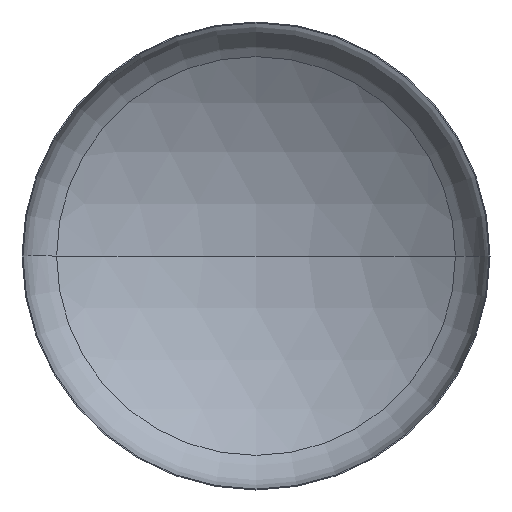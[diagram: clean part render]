
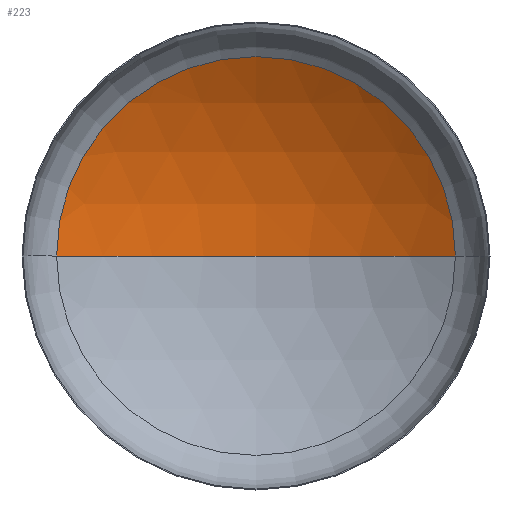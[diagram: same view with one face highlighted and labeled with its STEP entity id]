
A CAD part, front view. The second image highlights one B-rep face of the part: STEP entity #223.
In plain terms, the highlighted spherical face has radius 5200 mm.
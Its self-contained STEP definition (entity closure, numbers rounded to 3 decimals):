
#11 = DIRECTION ( 'NONE',  ( 0., 0., -1. ) ) ;
#23 = VERTEX_POINT ( 'NONE', #276 ) ;
#25 = ORIENTED_EDGE ( 'NONE', *, *, #155, .T. ) ;
#29 = CARTESIAN_POINT ( 'NONE',  ( 0., -3514.691, 0. ) ) ;
#38 = ORIENTED_EDGE ( 'NONE', *, *, #152, .T. ) ;
#48 = AXIS2_PLACEMENT_3D ( 'NONE', #29, #11, #188 ) ;
#77 = VERTEX_POINT ( 'NONE', #280 ) ;
#79 = AXIS2_PLACEMENT_3D ( 'NONE', #194, #393, #261 ) ;
#81 = ORIENTED_EDGE ( 'NONE', *, *, #159, .F. ) ;
#82 = AXIS2_PLACEMENT_3D ( 'NONE', #221, #208, #201 ) ;
#87 = AXIS2_PLACEMENT_3D ( 'NONE', #296, #295, #291 ) ;
#123 = CIRCLE ( 'NONE', #87, 2769.619 ) ;
#126 = EDGE_LOOP ( 'NONE', ( #81, #25, #38 ) ) ;
#152 = EDGE_CURVE ( 'NONE', #23, #169, #123, .T. ) ;
#155 = EDGE_CURVE ( 'NONE', #77, #23, #347, .T. ) ;
#159 = EDGE_CURVE ( 'NONE', #77, #169, #401, .T. ) ;
#169 = VERTEX_POINT ( 'NONE', #254 ) ;
#188 = DIRECTION ( 'NONE',  ( -1., 0., 0. ) ) ;
#194 = CARTESIAN_POINT ( 'NONE',  ( 0., -3514.691, 0. ) ) ;
#198 = SPHERICAL_SURFACE ( 'NONE', #48, 5200. ) ;
#201 = DIRECTION ( 'NONE',  ( -1., 0., 0. ) ) ;
#208 = DIRECTION ( 'NONE',  ( 0., 0., -1. ) ) ;
#221 = CARTESIAN_POINT ( 'NONE',  ( 0., -3514.691, 0. ) ) ;
#223 = ADVANCED_FACE ( 'NONE', ( #391 ), #198, .F. ) ;
#254 = CARTESIAN_POINT ( 'NONE',  ( -2769.619, 886.355, 0. ) ) ;
#261 = DIRECTION ( 'NONE',  ( 1., 0., 0. ) ) ;
#276 = CARTESIAN_POINT ( 'NONE',  ( 2769.619, 886.355, 0. ) ) ;
#280 = CARTESIAN_POINT ( 'NONE',  ( 0., 1685.309, 0. ) ) ;
#291 = DIRECTION ( 'NONE',  ( 1., 0., 0. ) ) ;
#295 = DIRECTION ( 'NONE',  ( 0., -1., 0. ) ) ;
#296 = CARTESIAN_POINT ( 'NONE',  ( 0., 886.355, 0. ) ) ;
#347 = CIRCLE ( 'NONE', #82, 5200. ) ;
#391 = FACE_OUTER_BOUND ( 'NONE', #126, .T. ) ;
#393 = DIRECTION ( 'NONE',  ( 0., 0., 1. ) ) ;
#401 = CIRCLE ( 'NONE', #79, 5200. ) ;
